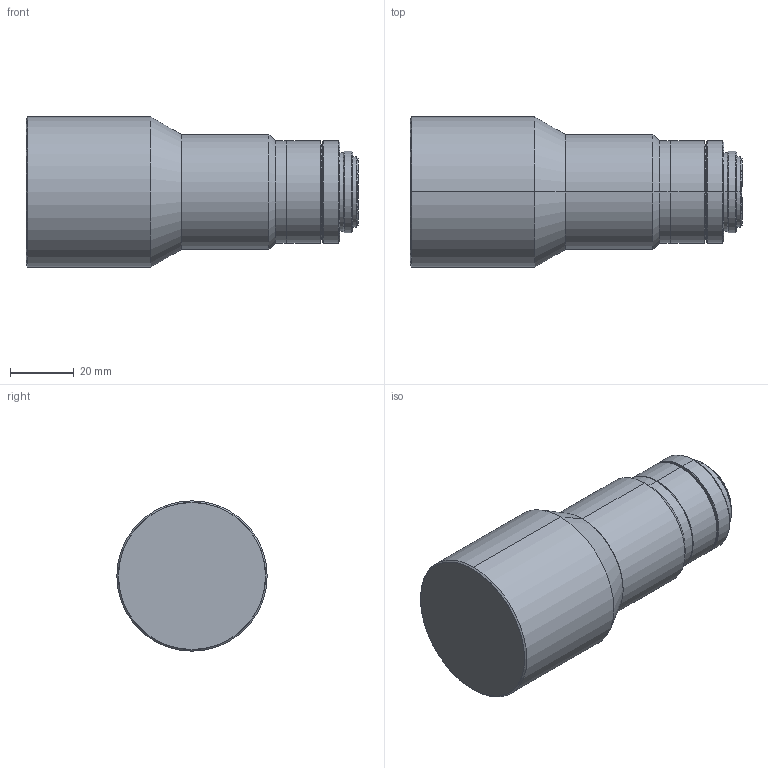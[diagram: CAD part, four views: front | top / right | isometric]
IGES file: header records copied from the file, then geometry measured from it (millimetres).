
Start section: SolidWorks IGES file using analytic representation for surfaces
Bounding box: 103.85 x 47 x 47 mm (x, y, z)
Surface area: 15744.5 mm2 (no closed solid volume)
Topology: 0 solids, 0 shells, 51 faces, 816 edges, 816 vertices
Faces by surface type: revolution 44, bspline 7
